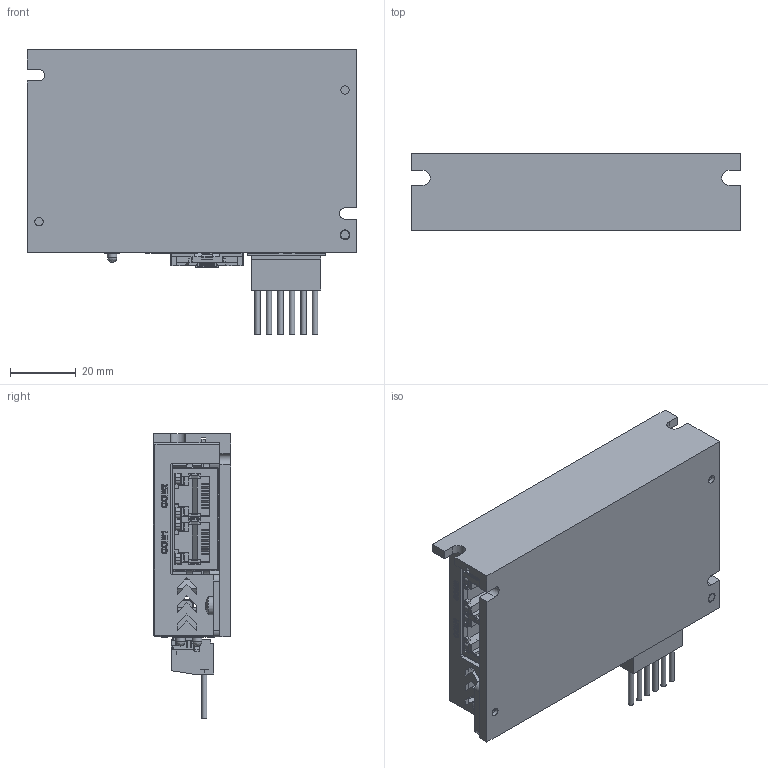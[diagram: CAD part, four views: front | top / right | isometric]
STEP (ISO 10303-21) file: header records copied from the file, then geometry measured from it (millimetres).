
FILE_DESCRIPTION (( 'STEP AP214' ), '1' );
FILE_NAME ('STF03_06-IP 3D.STEP', '2019-09-11T18:04:13', ( 'Kevin' ), ( 'Hewlett-Packard Company' ), 'SwSTEP 2.0', 'SolidWorks 2016', '' );
FILE_SCHEMA (( 'AUTOMOTIVE_DESIGN' ));
Length unit declared in the file: millimetre
Products named in the file (10): 6-3.5-; STF03_06-IP 3D; 4713101002273-A0-190911; 4713101002270-170919; 4299970002278.A0; M3肣翐; cross recessed pan head screws gb_GB_CROSS_SCREWS_TYPE1 M3X4-4  H type-N; cross recessed pan head screws gb_GB_CROSS_SCREWS_TYPE1 M3X4-4  H type-N_2; STF03奻裔; 5016462000
Assembly tree (15 placements, depth 2):
  STF03_06-IP 3D
    6-3.5-
    5016462000
    STF03奻裔
    cross recessed pan head screws gb_GB_CROSS_SCREWS_TYPE1 M3X4-4  H type-N_2  x5
    cross recessed pan head screws gb_GB_CROSS_SCREWS_TYPE1 M3X4-4  H type-N
    M3肣翐  x3
    4299970002278.A0
    4713101002270-170919
    4713101002273-A0-190911
Bounding box: 100 x 23.5 x 86.56 mm (x, y, z)
Volume: 63209.1 mm3; surface area: 74411.1 mm2
Topology: 23 solids, 23 shells, 3047 faces, 8072 edges, 5246 vertices
Faces by surface type: plane 2163, cylinder 617, bspline 248, cone 15, torus 4
Full cylindrical faces by diameter (mm): 0.6 x28, 0.8 x28, 0.85 x2, 0.9 x26, 1 x28, 1.1 x2, 1.3 x6, 1.6 x6, 1.65 x3, 2.4 x3, 2.5 x9, 2.9 x8, 3 x9, 3.2 x6, 3.25 x2, 3.3 x2, 5 x3, 5.6 x6
Entity records: 103712 total; most frequent: CARTESIAN_POINT 27185, ORIENTED_EDGE 15230, DIRECTION 13335, EDGE_CURVE 7615, LINE 5981, VECTOR 5981, VERTEX_POINT 5061, AXIS2_PLACEMENT_3D 3677
